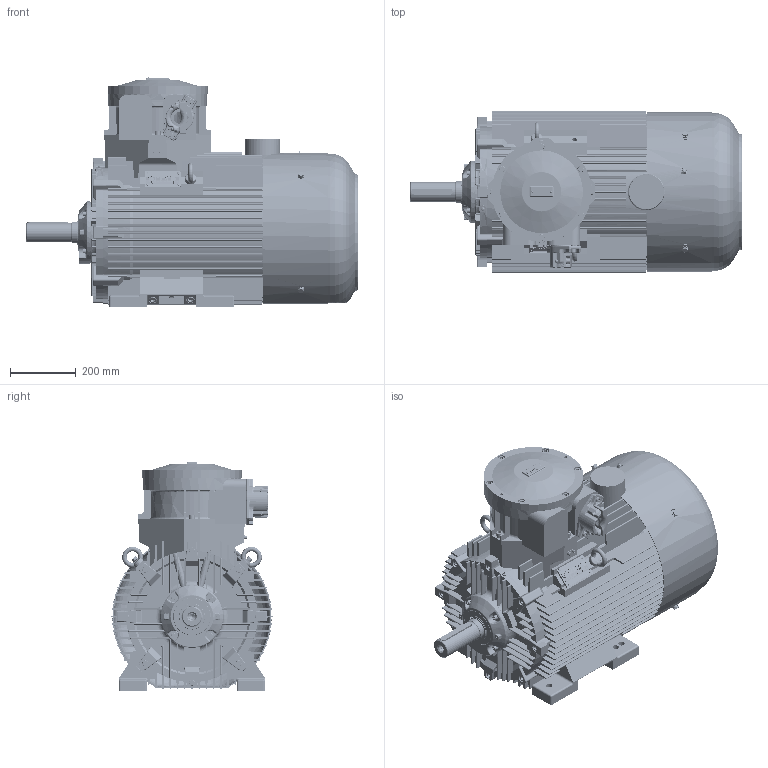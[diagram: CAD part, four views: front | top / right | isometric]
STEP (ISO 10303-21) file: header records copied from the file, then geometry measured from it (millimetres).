
FILE_DESCRIPTION(/* description */ ('Unknown'),/* implementation_level */ '2;1');
FILE_NAME(/* name */ 'Silnik cSTe225 (S,M)(4-8) - wykonanie OUTSIDE !',/* time_stamp */ '2021-12-23T11:09:15+01:00',/* author */ ('Unknown'),/* organization */ ('Unknown'),/* preprocessor_version */ 'ST-DEVELOPER v16.7',/* originating_system */ 'DEX',/* authorisation */ $);
FILE_SCHEMA (('AUTOMOTIVE_DESIGN {1 0 10303 214 3 1 1}'));
Length unit declared in the file: millimetre
Products named in the file (1): Silnik cSTe225 (S,M)(4-8) - wykonanie OUTSIDE !
Bounding box: 1009.13 x 489.83 x 696.46 mm (x, y, z)
Volume: 30257257.4 mm3; surface area: 7013829.9 mm2
Topology: 3 solids, 93 shells, 9405 faces, 25838 edges, 16569 vertices
Faces by surface type: plane 5827, cylinder 2096, cone 502, torus 418, bspline 376, sphere 186
Full cylindrical faces by diameter (mm): 1.2 x6, 1.6 x2, 2.459 x3, 2.5 x2, 3 x10, 3.1 x4, 3.2 x2, 3.4 x6, 4.773 x1, 4.917 x4, 5 x3, 6 x2, 6.2 x14, 6.3 x1, 6.4 x2, 6.466 x8, 6.5 x1, 6.647 x4, 8 x17, 8.16 x4, 8.376 x2, 8.8 x1, 8.917 x4, 9 x8, 9.853 x26, 10 x20, 10.106 x29, 10.5 x4, 12 x56, 13 x8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
Entity records: 373977 total; most frequent: CARTESIAN_POINT 76554, ORIENTED_EDGE 48038, DIRECTION 45730, EDGE_CURVE 24019, LINE 16498, VECTOR 16498, VERTEX_POINT 15904, AXIS2_PLACEMENT_3D 14616
